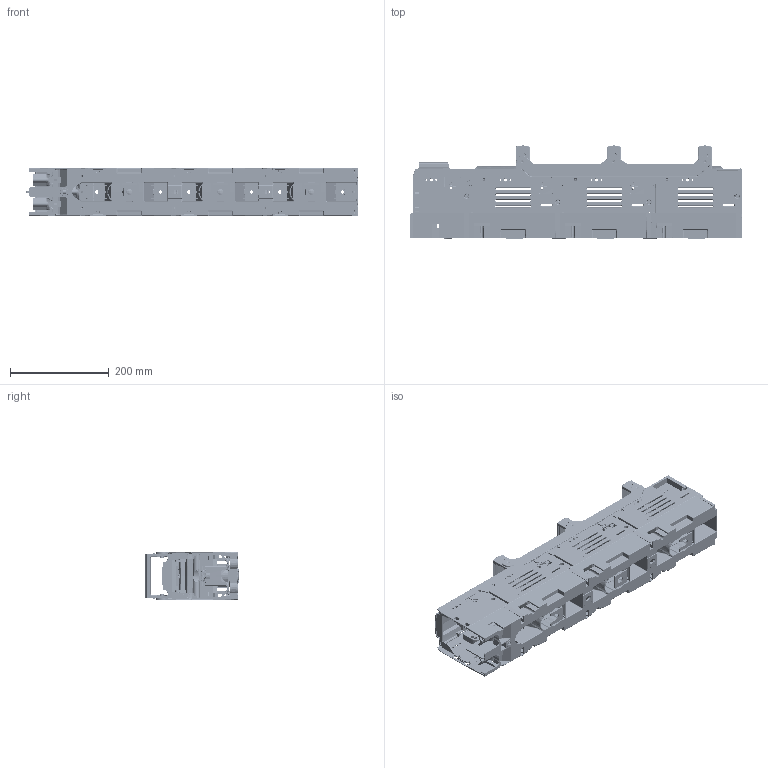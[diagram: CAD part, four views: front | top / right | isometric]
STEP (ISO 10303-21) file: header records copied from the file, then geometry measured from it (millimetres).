
FILE_DESCRIPTION (( 'STEP AP214' ), '1' );
FILE_NAME ('FSD123-33-LW.step', '2014-11-20T07:49:50', ( '' ), ( '' ), 'SwSTEP 2.0', 'SolidWorks 2011', '' );
FILE_SCHEMA (( 'AUTOMOTIVE_DESIGN' ));
Length unit declared in the file: millimetre
Products named in the file (1): FSD123-33-LW
Bounding box: 674 x 189 x 99 mm (x, y, z)
Volume: 1540574 mm3; surface area: 1293483.2 mm2
Topology: 25 solids, 25 shells, 11884 faces, 31151 edges, 19077 vertices
Faces by surface type: plane 5260, cylinder 3225, bspline 1392, cone 1203, torus 489, sphere 315
Entity records: 523642 total; most frequent: CARTESIAN_POINT 117466, ORIENTED_EDGE 61698, DIRECTION 53206, EDGE_CURVE 30849, VERTEX_POINT 19077, VECTOR 18162, LINE 18162, AXIS2_PLACEMENT_3D 17522
